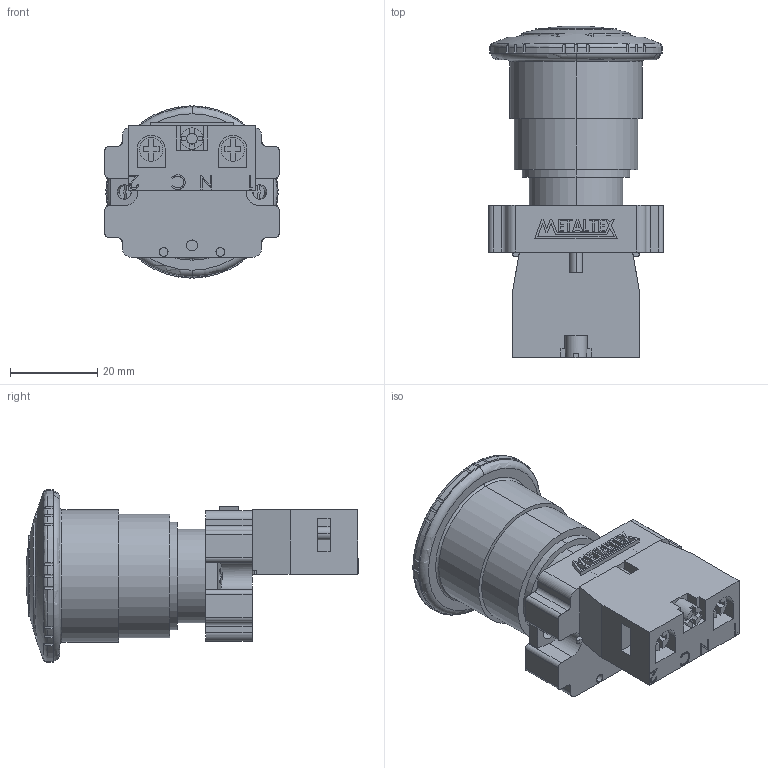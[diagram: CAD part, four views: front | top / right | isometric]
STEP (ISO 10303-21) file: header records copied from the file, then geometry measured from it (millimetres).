
FILE_DESCRIPTION (( 'STEP AP203' ), '1' );
FILE_NAME ('M20AKR-R-1B.STEP', '2018-01-17T14:04:51', ( '' ), ( '' ), 'SwSTEP 2.0', 'SolidWorks 2012', '' );
FILE_SCHEMA (( 'CONFIG_CONTROL_DESIGN' ));
Length unit declared in the file: millimetre
Products named in the file (4): M20AKR; M20-1B; METALTEX 18,98; M20AKR-R-1B
Assembly tree (3 placements, depth 2):
  M20AKR-R-1B
    M20AKR
    M20-1B
    METALTEX 18,98
Bounding box: 40 x 76.2 x 39.5 mm (x, y, z)
Volume: 47781.1 mm3; surface area: 13445 mm2
Topology: 9 solids, 9 shells, 453 faces, 1194 edges, 785 vertices
Faces by surface type: plane 286, cylinder 134, bspline 15, torus 10, sphere 8
Entity records: 15760 total; most frequent: CARTESIAN_POINT 3969, ORIENTED_EDGE 2388, DIRECTION 2368, EDGE_CURVE 1194, AXIS2_PLACEMENT_3D 804, VERTEX_POINT 785, VECTOR 760, LINE 760
